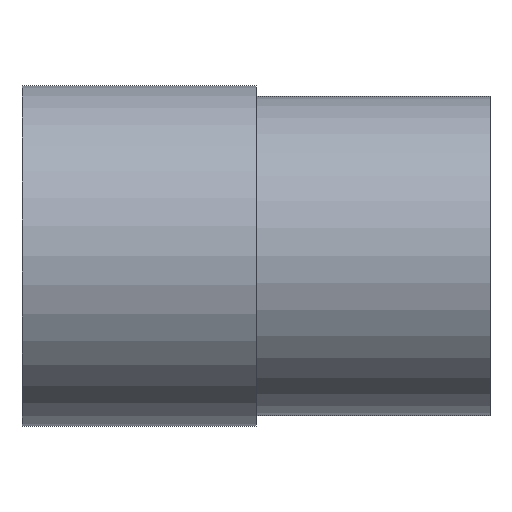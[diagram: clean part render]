
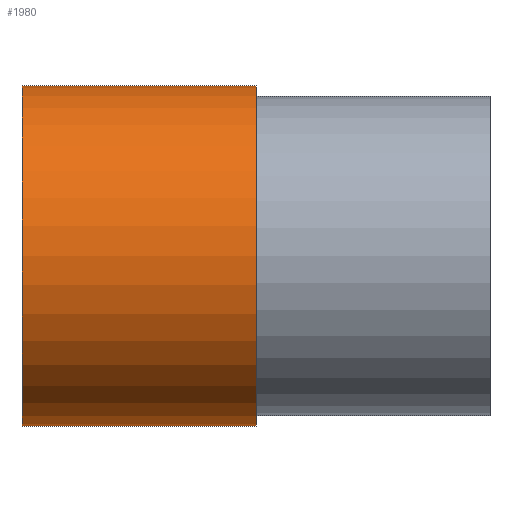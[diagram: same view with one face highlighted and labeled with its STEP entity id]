
A CAD part, top view. The second image highlights one B-rep face of the part: STEP entity #1980.
In plain terms, the highlighted cylindrical face has radius 8 mm (diameter 16 mm), a partial arc.
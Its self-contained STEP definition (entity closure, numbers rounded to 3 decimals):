
#210=CARTESIAN_POINT('',(58.555,48.75,0.));
#220=DIRECTION('',(1.,0.,0.));
#230=DIRECTION('',(0.,1.,0.));
#240=AXIS2_PLACEMENT_3D('',#210,#220,#230);
#250=CIRCLE('',#240,8.);
#260=CARTESIAN_POINT('',(58.555,56.75,0.));
#270=VERTEX_POINT('',#260);
#280=CARTESIAN_POINT('',(58.555,40.75,0.));
#290=VERTEX_POINT('',#280);
#300=EDGE_CURVE('',#270,#290,#250,.T.);
#1320=CARTESIAN_POINT('',(69.555,48.75,0.));
#1330=DIRECTION('',(1.,0.,0.));
#1340=DIRECTION('',(0.,1.,0.));
#1350=AXIS2_PLACEMENT_3D('',#1320,#1330,#1340);
#1360=CIRCLE('',#1350,8.);
#1370=CARTESIAN_POINT('',(69.555,56.75,0.))
;
#1380=VERTEX_POINT('',#1370);
#1390=CARTESIAN_POINT('',(69.555,40.75,0.));
#1400=VERTEX_POINT('',#1390);
#1410=EDGE_CURVE('',#1380,#1400,#1360,.T.);
#1580=CARTESIAN_POINT('',(64.055,40.75,0.));
#1590=DIRECTION('',(1.,0.,0.));
#1600=VECTOR('',#1590,1.);
#1610=LINE('',#1580,#1600);
#1620=EDGE_CURVE('',#290,#1400,#1610,.T.);
#1650=CARTESIAN_POINT('',(64.055,56.75,0.))
;
#1660=DIRECTION('',(1.,0.,0.));
#1670=VECTOR('',#1660,1.);
#1680=LINE('',#1650,#1670);
#1690=EDGE_CURVE('',#270,#1380,#1680,.T.);
#1870=CARTESIAN_POINT('',(64.055,48.75,0.));
#1880=DIRECTION('',(1.,0.,0.));
#1890=DIRECTION('',(0.,-1.,0.));
#1900=AXIS2_PLACEMENT_3D('',#1870,#1880,#1890);
#1910=CYLINDRICAL_SURFACE('',#1900,8.);
#1920=ORIENTED_EDGE('',*,*,#300,.T.);
#1930=ORIENTED_EDGE('',*,*,#1690,.F.);
#1940=ORIENTED_EDGE('',*,*,#1410,.F.);
#1950=ORIENTED_EDGE('',*,*,#1620,.T.);
#1960=EDGE_LOOP('',(#1950,#1940,#1930,#1920));
#1970=FACE_OUTER_BOUND('',#1960,.T.);
#1980=ADVANCED_FACE('',(#1970),#1910,.T.);
